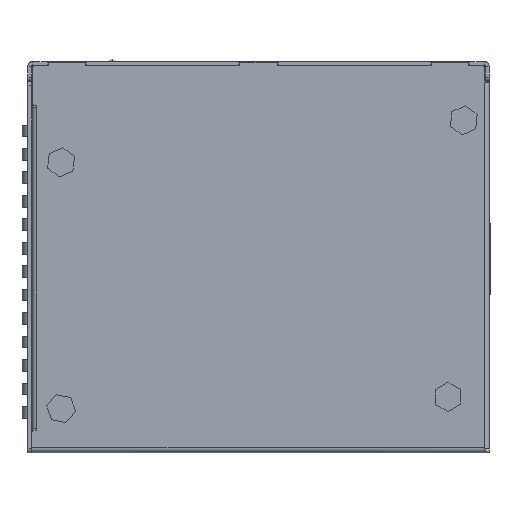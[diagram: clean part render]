
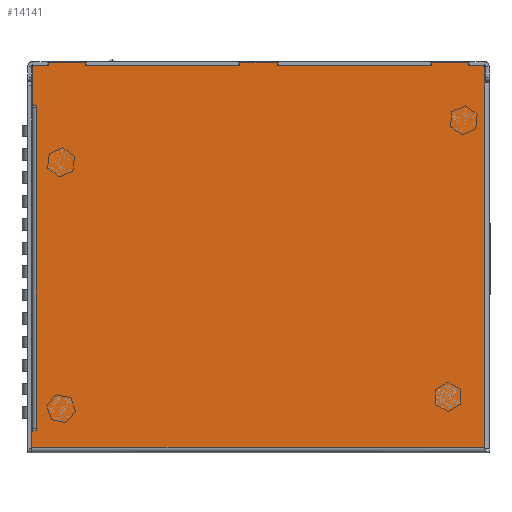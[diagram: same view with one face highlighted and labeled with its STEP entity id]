
A CAD part, left-side view. The second image highlights one B-rep face of the part: STEP entity #14141.
In plain terms, the highlighted planar face has unit normal (-1, 0, 0).
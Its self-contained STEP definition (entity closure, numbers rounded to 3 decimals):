
#6382=DIRECTION('',(0.,-1.,0.));
#6383=VECTOR('',#6382,39.4);
#6384=CARTESIAN_POINT('',(-1.,-4.8,0.));
#6385=LINE('',#6384,#6383);
#6386=DIRECTION('',(0.,0.,-1.));
#6387=VECTOR('',#6386,0.8);
#6388=CARTESIAN_POINT('',(-1.,-44.2,0.8));
#6389=LINE('',#6388,#6387);
#6390=DIRECTION('',(0.,1.,0.));
#6391=VECTOR('',#6390,9.6);
#6392=CARTESIAN_POINT('',(-1.,-53.8,0.8));
#6393=LINE('',#6392,#6391);
#6394=DIRECTION('',(0.,0.,1.));
#6395=VECTOR('',#6394,0.8);
#6396=CARTESIAN_POINT('',(-1.,-53.8,0.));
#6397=LINE('',#6396,#6395);
#6398=DIRECTION('',(0.,-1.,0.));
#6399=VECTOR('',#6398,3.5);
#6400=CARTESIAN_POINT('',(-1.,-53.8,0.));
#6401=LINE('',#6400,#6399);
#6402=CARTESIAN_POINT('',(-1.,-57.3,-0.5));
#6403=DIRECTION('',(-1.,0.,0.));
#6404=DIRECTION('',(0.,-1.,0.));
#6405=AXIS2_PLACEMENT_3D('',#6402,#6403,#6404);
#6407=DIRECTION('',(0.,0.,-1.));
#6408=VECTOR('',#6407,3.7);
#6409=CARTESIAN_POINT('',(-1.,-57.8,-0.5));
#6410=LINE('',#6409,#6408);
#6411=CARTESIAN_POINT('',(-1.,57.5,-93.8));
#6412=DIRECTION('',(-1.,0.,0.));
#6413=DIRECTION('',(0.,0.,1.));
#6414=AXIS2_PLACEMENT_3D('',#6411,#6412,#6413);
#6416=DIRECTION('',(0.,-1.,0.));
#6417=VECTOR('',#6416,0.45);
#6418=CARTESIAN_POINT('',(-1.,57.5,-93.3));
#6419=LINE('',#6418,#6417);
#6420=CARTESIAN_POINT('',(-1.,57.05,-93.05));
#6421=DIRECTION('',(-1.,0.,0.));
#6422=DIRECTION('',(0.,0.,-1.));
#6423=AXIS2_PLACEMENT_3D('',#6420,#6421,#6422);
#6425=DIRECTION('',(0.,0.,-1.));
#6426=VECTOR('',#6425,0.25);
#6427=CARTESIAN_POINT('',(-1.,56.8,-92.8));
#6428=LINE('',#6427,#6426);
#6429=DIRECTION('',(0.,0.,-1.));
#6430=VECTOR('',#6429,0.25);
#6431=CARTESIAN_POINT('',(-1.,56.8,-10.45));
#6432=LINE('',#6431,#6430);
#6433=CARTESIAN_POINT('',(-1.,57.05,-10.45));
#6434=DIRECTION('',(1.,0.,0.));
#6435=DIRECTION('',(0.,0.,1.));
#6436=AXIS2_PLACEMENT_3D('',#6433,#6434,#6435);
#6438=DIRECTION('',(0.,-1.,0.));
#6439=VECTOR('',#6438,0.25);
#6440=CARTESIAN_POINT('',(-1.,57.3,-10.2));
#6441=LINE('',#6440,#6439);
#6442=CARTESIAN_POINT('',(-1.,57.3,-9.7));
#6443=DIRECTION('',(-1.,0.,0.));
#6444=DIRECTION('',(0.,1.,0.));
#6445=AXIS2_PLACEMENT_3D('',#6442,#6443,#6444);
#6447=DIRECTION('',(0.,0.,1.));
#6448=VECTOR('',#6447,5.5);
#6449=CARTESIAN_POINT('',(-1.,57.8,-9.7));
#6450=LINE('',#6449,#6448);
#6451=DIRECTION('',(0.,0.,1.));
#6452=VECTOR('',#6451,3.7);
#6453=CARTESIAN_POINT('',(-1.,57.8,-4.2));
#6454=LINE('',#6453,#6452);
#6455=CARTESIAN_POINT('',(-1.,57.3,-0.5));
#6456=DIRECTION('',(-1.,0.,0.));
#6457=DIRECTION('',(0.,0.,1.));
#6458=AXIS2_PLACEMENT_3D('',#6455,#6456,#6457);
#6460=DIRECTION('',(0.,-1.,0.));
#6461=VECTOR('',#6460,3.5);
#6462=CARTESIAN_POINT('',(-1.,57.3,0.));
#6463=LINE('',#6462,#6461);
#6464=DIRECTION('',(0.,0.,-1.));
#6465=VECTOR('',#6464,0.8);
#6466=CARTESIAN_POINT('',(-1.,53.8,0.8));
#6467=LINE('',#6466,#6465);
#6468=DIRECTION('',(0.,1.,0.));
#6469=VECTOR('',#6468,9.6);
#6470=CARTESIAN_POINT('',(-1.,44.2,0.8));
#6471=LINE('',#6470,#6469);
#6472=DIRECTION('',(0.,0.,1.));
#6473=VECTOR('',#6472,0.8);
#6474=CARTESIAN_POINT('',(-1.,44.2,0.));
#6475=LINE('',#6474,#6473);
#6476=DIRECTION('',(0.,-1.,0.));
#6477=VECTOR('',#6476,39.4);
#6478=CARTESIAN_POINT('',(-1.,44.2,0.));
#6479=LINE('',#6478,#6477);
#6480=DIRECTION('',(0.,0.,-1.));
#6481=VECTOR('',#6480,0.8);
#6482=CARTESIAN_POINT('',(-1.,4.8,0.8));
#6483=LINE('',#6482,#6481);
#6484=DIRECTION('',(0.,1.,0.));
#6485=VECTOR('',#6484,9.6);
#6486=CARTESIAN_POINT('',(-1.,-4.8,0.8));
#6487=LINE('',#6486,#6485);
#6488=DIRECTION('',(0.,0.,1.));
#6489=VECTOR('',#6488,0.8);
#6490=CARTESIAN_POINT('',(-1.,-4.8,0.));
#6491=LINE('',#6490,#6489);
#6556=DIRECTION('',(0.,0.,1.));
#6557=VECTOR('',#6556,82.1);
#6558=CARTESIAN_POINT('',(-1.,56.8,-92.8));
#6559=LINE('',#6558,#6557);
#6620=DIRECTION('',(0.,0.,-1.));
#6621=VECTOR('',#6620,4.);
#6622=CARTESIAN_POINT('',(-1.,58.,-93.8));
#6623=LINE('',#6622,#6621);
#6658=DIRECTION('',(0.,1.,0.));
#6659=VECTOR('',#6658,115.8);
#6660=CARTESIAN_POINT('',(-1.,-57.8,-97.8));
#6661=LINE('',#6660,#6659);
#10217=DIRECTION('',(0.,0.,-1.));
#10218=VECTOR('',#10217,93.6);
#10219=CARTESIAN_POINT('',(-1.,-57.8,-4.2));
#10220=LINE('',#10219,#10218);
#12188=CARTESIAN_POINT('',(-1.,58.,-97.8));
#12190=VERTEX_POINT('',#12188);
#12191=CARTESIAN_POINT('',(-1.,-57.8,-97.8));
#12192=VERTEX_POINT('',#12191);
#12205=CARTESIAN_POINT('',(-1.,-57.8,-4.2));
#12206=VERTEX_POINT('',#12205);
#12235=CARTESIAN_POINT('',(-1.,57.3,0.));
#12237=VERTEX_POINT('',#12235);
#12243=CARTESIAN_POINT('',(-1.,-57.8,-0.5));
#12244=VERTEX_POINT('',#12243);
#12245=CARTESIAN_POINT('',(-1.,-57.3,0.));
#12246=VERTEX_POINT('',#12245);
#12531=CARTESIAN_POINT('',(-1.,57.05,-10.2));
#12533=VERTEX_POINT('',#12531);
#12537=CARTESIAN_POINT('',(-1.,56.8,-10.45));
#12538=VERTEX_POINT('',#12537);
#12541=CARTESIAN_POINT('',(-1.,56.8,-10.7));
#12542=VERTEX_POINT('',#12541);
#12546=CARTESIAN_POINT('',(-1.,57.05,-93.3));
#12548=VERTEX_POINT('',#12546);
#12549=CARTESIAN_POINT('',(-1.,56.8,-92.8));
#12550=VERTEX_POINT('',#12549);
#12555=CARTESIAN_POINT('',(-1.,56.8,-93.05));
#12556=VERTEX_POINT('',#12555);
#12563=CARTESIAN_POINT('',(-1.,57.8,-4.2));
#12564=CARTESIAN_POINT('',(-1.,57.8,-0.5));
#12565=VERTEX_POINT('',#12563);
#12566=VERTEX_POINT('',#12564);
#12571=CARTESIAN_POINT('',(-1.,57.8,-9.7));
#12572=VERTEX_POINT('',#12571);
#12573=CARTESIAN_POINT('',(-1.,57.3,-10.2));
#12574=VERTEX_POINT('',#12573);
#12579=CARTESIAN_POINT('',(-1.,57.5,-93.3));
#12580=VERTEX_POINT('',#12579);
#12581=CARTESIAN_POINT('',(-1.,58.,-93.8));
#12582=VERTEX_POINT('',#12581);
#13912=CARTESIAN_POINT('',(-1.,44.2,0.));
#13913=CARTESIAN_POINT('',(-1.,44.2,0.8));
#13914=VERTEX_POINT('',#13912);
#13915=VERTEX_POINT('',#13913);
#13916=CARTESIAN_POINT('',(-1.,53.8,0.8));
#13917=VERTEX_POINT('',#13916);
#13918=CARTESIAN_POINT('',(-1.,53.8,0.));
#13919=VERTEX_POINT('',#13918);
#13928=CARTESIAN_POINT('',(-1.,-4.8,0.));
#13929=CARTESIAN_POINT('',(-1.,-4.8,0.8));
#13930=VERTEX_POINT('',#13928);
#13931=VERTEX_POINT('',#13929);
#13932=CARTESIAN_POINT('',(-1.,4.8,0.8));
#13933=VERTEX_POINT('',#13932);
#13934=CARTESIAN_POINT('',(-1.,4.8,0.));
#13935=VERTEX_POINT('',#13934);
#13944=CARTESIAN_POINT('',(-1.,-53.8,0.));
#13945=CARTESIAN_POINT('',(-1.,-53.8,0.8));
#13946=VERTEX_POINT('',#13944);
#13947=VERTEX_POINT('',#13945);
#13948=CARTESIAN_POINT('',(-1.,-44.2,0.8));
#13949=VERTEX_POINT('',#13948);
#13950=CARTESIAN_POINT('',(-1.,-44.2,0.));
#13951=VERTEX_POINT('',#13950);
#14075=CARTESIAN_POINT('',(-1.,0.,0.));
#14076=DIRECTION('',(1.,0.,0.));
#14077=DIRECTION('',(0.,-1.,0.));
#14078=AXIS2_PLACEMENT_3D('',#14075,#14076,#14077);
#14079=PLANE('',#14078);
#14081=ORIENTED_EDGE('',*,*,#14080,.T.);
#14083=ORIENTED_EDGE('',*,*,#14082,.F.);
#14085=ORIENTED_EDGE('',*,*,#14084,.F.);
#14087=ORIENTED_EDGE('',*,*,#14086,.F.);
#14088=ORIENTED_EDGE('',*,*,#14065,.T.);
#14090=ORIENTED_EDGE('',*,*,#14089,.F.);
#14092=ORIENTED_EDGE('',*,*,#14091,.T.);
#14094=ORIENTED_EDGE('',*,*,#14093,.T.);
#14096=ORIENTED_EDGE('',*,*,#14095,.T.);
#14098=ORIENTED_EDGE('',*,*,#14097,.F.);
#14100=ORIENTED_EDGE('',*,*,#14099,.F.);
#14102=ORIENTED_EDGE('',*,*,#14101,.T.);
#14104=ORIENTED_EDGE('',*,*,#14103,.T.);
#14106=ORIENTED_EDGE('',*,*,#14105,.F.);
#14108=ORIENTED_EDGE('',*,*,#14107,.T.);
#14110=ORIENTED_EDGE('',*,*,#14109,.F.);
#14112=ORIENTED_EDGE('',*,*,#14111,.F.);
#14114=ORIENTED_EDGE('',*,*,#14113,.F.);
#14116=ORIENTED_EDGE('',*,*,#14115,.F.);
#14118=ORIENTED_EDGE('',*,*,#14117,.T.);
#14120=ORIENTED_EDGE('',*,*,#14119,.T.);
#14122=ORIENTED_EDGE('',*,*,#14121,.F.);
#14124=ORIENTED_EDGE('',*,*,#14123,.T.);
#14126=ORIENTED_EDGE('',*,*,#14125,.F.);
#14128=ORIENTED_EDGE('',*,*,#14127,.F.);
#14130=ORIENTED_EDGE('',*,*,#14129,.F.);
#14132=ORIENTED_EDGE('',*,*,#14131,.T.);
#14134=ORIENTED_EDGE('',*,*,#14133,.F.);
#14136=ORIENTED_EDGE('',*,*,#14135,.F.);
#14138=ORIENTED_EDGE('',*,*,#14137,.F.);
#14139=EDGE_LOOP('',(#14081,#14083,#14085,#14087,#14088,#14090,#14092,#14094,
#14096,#14098,#14100,#14102,#14104,#14106,#14108,#14110,#14112,#14114,#14116,
#14118,#14120,#14122,#14124,#14126,#14128,#14130,#14132,#14134,#14136,#14138));
#14140=FACE_OUTER_BOUND('',#14139,.F.);
#6406=CIRCLE('',#6405,0.5);
#6415=CIRCLE('',#6414,0.5);
#6424=CIRCLE('',#6423,0.25);
#6437=CIRCLE('',#6436,0.25);
#6446=CIRCLE('',#6445,0.5);
#6459=CIRCLE('',#6458,0.5);
#14065=EDGE_CURVE('',#13946,#12246,#6401,.T.);
#14080=EDGE_CURVE('',#13930,#13951,#6385,.T.);
#14082=EDGE_CURVE('',#13949,#13951,#6389,.T.);
#14084=EDGE_CURVE('',#13947,#13949,#6393,.T.);
#14086=EDGE_CURVE('',#13946,#13947,#6397,.T.);
#14089=EDGE_CURVE('',#12244,#12246,#6406,.T.);
#14091=EDGE_CURVE('',#12244,#12206,#6410,.T.);
#14093=EDGE_CURVE('',#12206,#12192,#10220,.T.);
#14095=EDGE_CURVE('',#12192,#12190,#6661,.T.);
#14097=EDGE_CURVE('',#12582,#12190,#6623,.T.);
#14099=EDGE_CURVE('',#12580,#12582,#6415,.T.);
#14101=EDGE_CURVE('',#12580,#12548,#6419,.T.);
#14103=EDGE_CURVE('',#12548,#12556,#6424,.T.);
#14105=EDGE_CURVE('',#12550,#12556,#6428,.T.);
#14107=EDGE_CURVE('',#12550,#12542,#6559,.T.);
#14109=EDGE_CURVE('',#12538,#12542,#6432,.T.);
#14111=EDGE_CURVE('',#12533,#12538,#6437,.T.);
#14113=EDGE_CURVE('',#12574,#12533,#6441,.T.);
#14115=EDGE_CURVE('',#12572,#12574,#6446,.T.);
#14117=EDGE_CURVE('',#12572,#12565,#6450,.T.);
#14119=EDGE_CURVE('',#12565,#12566,#6454,.T.);
#14121=EDGE_CURVE('',#12237,#12566,#6459,.T.);
#14123=EDGE_CURVE('',#12237,#13919,#6463,.T.);
#14125=EDGE_CURVE('',#13917,#13919,#6467,.T.);
#14127=EDGE_CURVE('',#13915,#13917,#6471,.T.);
#14129=EDGE_CURVE('',#13914,#13915,#6475,.T.);
#14131=EDGE_CURVE('',#13914,#13935,#6479,.T.);
#14133=EDGE_CURVE('',#13933,#13935,#6483,.T.);
#14135=EDGE_CURVE('',#13931,#13933,#6487,.T.);
#14137=EDGE_CURVE('',#13930,#13931,#6491,.T.);
#14141=ADVANCED_FACE('',(#14140),#14079,.F.);
